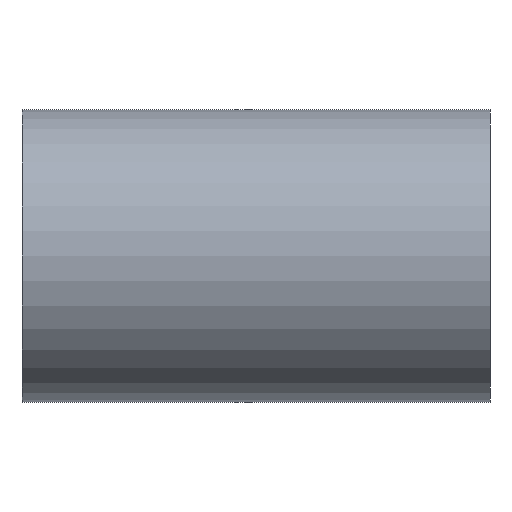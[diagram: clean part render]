
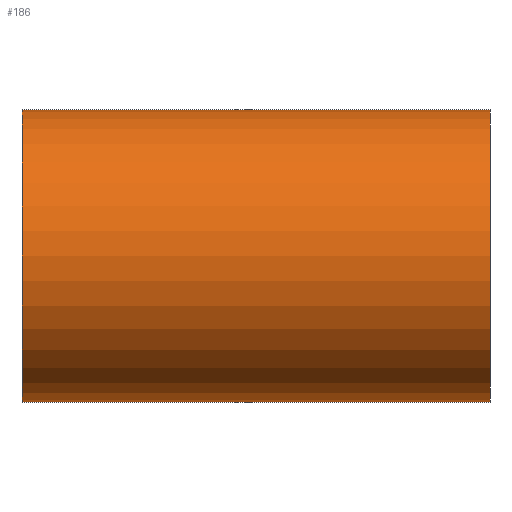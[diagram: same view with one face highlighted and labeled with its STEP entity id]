
A CAD part, front view. The second image highlights one B-rep face of the part: STEP entity #186.
In plain terms, the highlighted cylindrical face has radius 500 mm (diameter 1000 mm), a partial arc.
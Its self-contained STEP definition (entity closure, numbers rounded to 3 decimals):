
#186=ADVANCED_FACE('',(#374),#375,.T.);
#374=FACE_OUTER_BOUND('',#589,.T.);
#375=CYLINDRICAL_SURFACE('',#590,500.0);
#589=EDGE_LOOP('',(#1079,#1080,#1081,#1082));
#590=AXIS2_PLACEMENT_3D('',#1083,#1084,#1085);
#1079=ORIENTED_EDGE('',*,*,#1167,.T.);
#1080=ORIENTED_EDGE('',*,*,#1373,.F.);
#1081=ORIENTED_EDGE('',*,*,#1169,.T.);
#1082=ORIENTED_EDGE('',*,*,#1374,.F.);
#1083=CARTESIAN_POINT('',(0.0,0.0,0.0));
#1084=DIRECTION('',(1.0,0.0,0.0));
#1085=DIRECTION('',(0.0,0.0,-1.0));
#1167=EDGE_CURVE('',#1378,#1379,#1380,.T.);
#1169=EDGE_CURVE('',#1383,#1381,#1384,.T.);
#1373=EDGE_CURVE('',#1383,#1379,#1687,.T.);
#1374=EDGE_CURVE('',#1378,#1381,#1688,.T.);
#1378=VERTEX_POINT('',#1692);
#1379=VERTEX_POINT('',#1693);
#1380=LINE('',#1694,#1695);
#1381=VERTEX_POINT('',#1696);
#1383=VERTEX_POINT('',#1698);
#1384=LINE('',#1699,#1700);
#1687=CIRCLE('',#2063,500.0);
#1688=CIRCLE('',#2064,500.0);
#1692=CARTESIAN_POINT('',(-800.0,0.0,-500.0));
#1693=CARTESIAN_POINT('',(800.0,0.0,-500.0));
#1694=CARTESIAN_POINT('',(0.0,0.,-500.0));
#1695=VECTOR('',#2067,1.0);
#1696=CARTESIAN_POINT('',(-800.0,0.,500.0));
#1698=CARTESIAN_POINT('',(800.0,0.,500.0));
#1699=CARTESIAN_POINT('',(0.0,0.,500.0));
#1700=VECTOR('',#2071,1.0);
#2063=AXIS2_PLACEMENT_3D('',#2402,#2403,#2404);
#2064=AXIS2_PLACEMENT_3D('',#2405,#2406,#2407);
#2067=DIRECTION('',(1.0,0.0,0.0));
#2071=DIRECTION('',(-1.0,-0.0,-0.0));
#2402=CARTESIAN_POINT('',(800.0,0.0,0.0));
#2403=DIRECTION('',(1.0,0.0,0.0));
#2404=DIRECTION('',(0.0,0.0,-1.0));
#2405=CARTESIAN_POINT('',(-800.0,0.0,0.0));
#2406=DIRECTION('',(-1.0,0.0,0.0));
#2407=DIRECTION('',(0.0,0.0,-1.0));
